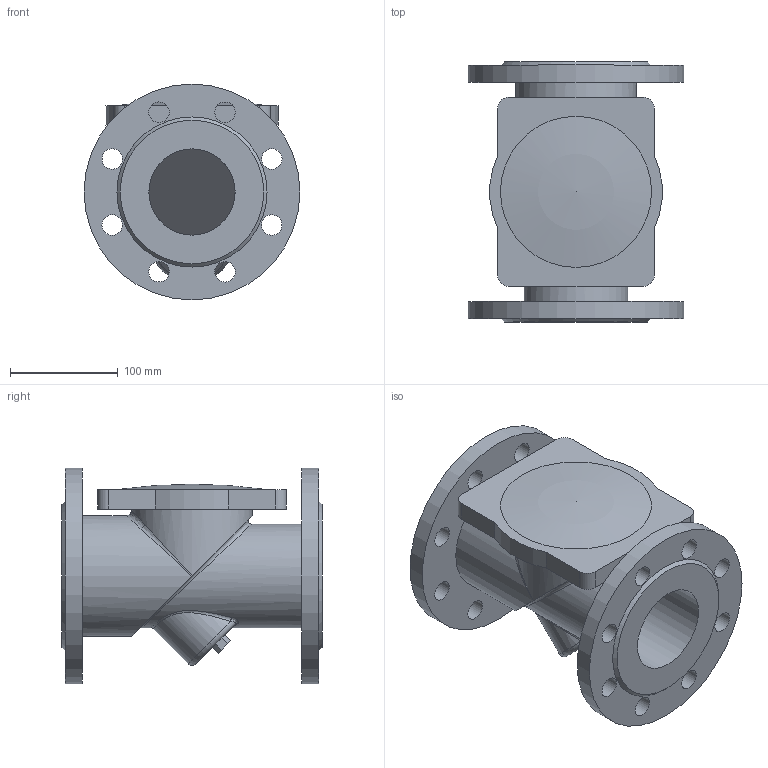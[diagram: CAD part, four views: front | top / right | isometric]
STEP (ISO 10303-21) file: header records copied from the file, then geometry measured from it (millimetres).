
FILE_DESCRIPTION(('STEP AP203'), '1');
FILE_NAME('Êëàïàí îäíîñòâîð÷àòûé îáðàòíûé ôëàíöåâûé 015F.Z DN80 PN10_PN16', '', ('UNSPECIFIED'), ('UNSPECIFIED'), 'ASCON STEP Converter 1.6', 'ASCON Math Kernel', '');
FILE_SCHEMA(('CONFIG_CONTROL_DESIGN'));
Length unit declared in the file: millimetre
Bounding box: 200 x 241 x 200 mm (x, y, z)
Volume: 2122265.6 mm3; surface area: 338488.3 mm2
Topology: 1 solids, 2 shells, 70 faces, 159 edges, 102 vertices
Faces by surface type: cylinder 33, plane 27, bspline 6, cone 2, torus 1, sphere 1
Full cylindrical faces by diameter (mm): 19 x16, 80 x2, 95 x1, 96 x1, 112 x2, 200 x2
Entity records: 4065 total; most frequent: CARTESIAN_POINT 1970, DIRECTION 298, ORIENTED_EDGE 256, EDGE_LOOP 141, AXIS2_PLACEMENT_3D 128, EDGE_CURVE 128, VERTEX_POINT 101, FACE_BOUND 88
